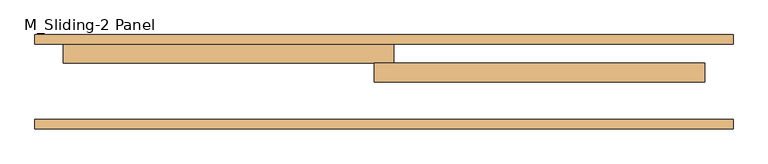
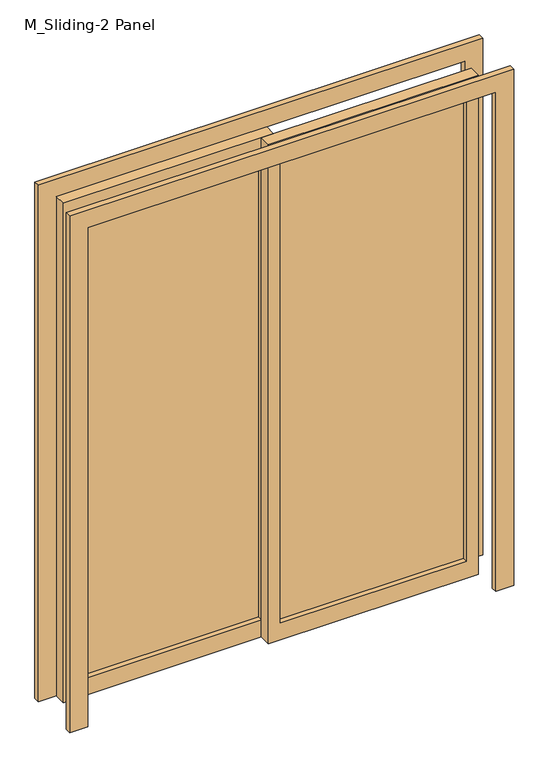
"""IFC4 building model written with IfcOpenShell, lengths in millimetres: door geometry, M_Sliding-2 Panel : ب 3."""

from ifc_helpers import new_model, si_unit, frame, origin, place, context, project, spatial, polyline, outline, extrude, source, transform, mapped, element, save


def m_sliding_2_panel_41676aa5(model_context):
    return source(origin(), model_context, "Body", "SweptSolid", [
        extrude(outline(polyline([(25.4, 155.175), (800.0, 155.175), (800.0, 148.825), (25.4, 148.825), (25.4, 155.175)])), frame((0.0, 0.0, 75.0), z_axis=(0.0, 0.0, 1.0), x_axis=(1.0, 0.0, 0.0)), (0.0, 0.0, 1.0), 2050.0),
        extrude(outline(polyline([(2200.0, -25.4), (0.0, -25.4), (0.0, 850.0), (2200.0, 850.0), (2200.0, -25.4)]), holes=[polyline([(2125.0, 24.6), (2125.0, 800.0), (75.0, 800.0), (75.0, 24.6), (2125.0, 24.6)])]), frame((0.0, 127.0, 0.0), z_axis=(0.0, 1.0, 0.0), x_axis=(0.0, 0.0, 1.0)), (0.0, 0.0, 1.0), 50.0),
        extrude(outline(polyline([(-800.0, 205.175), (-24.6, 205.175), (-24.6, 198.825), (-800.0, 198.825), (-800.0, 205.175)])), frame((0.0, 0.0, 75.0), z_axis=(0.0, 0.0, 1.0), x_axis=(1.0, 0.0, 0.0)), (0.0, 0.0, 1.0), 2050.0),
        extrude(outline(polyline([(2200.0, 25.4), (2200.0, -850.0), (0.0, -850.0), (0.0, 25.4), (2200.0, 25.4)]), holes=[polyline([(2125.0, -24.6), (75.0, -24.6), (75.0, -800.0), (2125.0, -800.0), (2125.0, -24.6)])]), frame((0.0, 177.0, 0.0), z_axis=(0.0, 1.0, 0.0), x_axis=(0.0, 0.0, 1.0)), (0.0, 0.0, 1.0), 50.0),
        extrude(outline(polyline([(0.0, -925.0), (0.0, -850.0), (2200.0, -850.0), (2200.0, 850.0), (0.0, 850.0), (0.0, 925.0), (2275.0, 925.0), (2275.0, -925.0), (0.0, -925.0)])), frame((0.0, 2.0, 0.0), z_axis=(0.0, 1.0, 0.0), x_axis=(0.0, 0.0, 1.0)), (0.0, 0.0, 1.0), 25.0),
        extrude(outline(polyline([(0.0, 925.0), (2275.0, 925.0), (2275.0, -925.0), (0.0, -925.0), (0.0, -850.0), (2200.0, -850.0), (2200.0, 850.0), (0.0, 850.0), (0.0, 925.0)])), frame((0.0, 227.0, 0.0), z_axis=(0.0, 1.0, 0.0), x_axis=(0.0, 0.0, 1.0)), (0.0, 0.0, 1.0), 25.0),
    ])


if __name__ == "__main__":
    model = new_model("IFC4")
    model_context = context("Model", 3, world=origin())
    ifc_project = project(units=[si_unit("LENGTHUNIT", "METRE", prefix="MILLI")], contexts=[model_context])
    site = spatial("IfcSite", under=ifc_project)
    building = spatial("IfcBuilding", under=site)
    placement = place(None, origin())
    m_sliding_2_panel_shape = m_sliding_2_panel_41676aa5(model_context)
    element("IfcDoor", 1, ObjectType="M_Sliding-2 Panel : ب 3", at=placement, inside=building, context=model_context, shape_type="MappedRepresentation", body=[
        mapped(m_sliding_2_panel_shape, transform((0.0, 0.0, 0.0), x_axis=(1.0, 0.0, 0.0), y_axis=(0.0, 1.0, 0.0), z_axis=(0.0, 0.0, 1.0))),
    ])
    save(model, "model.ifc")
